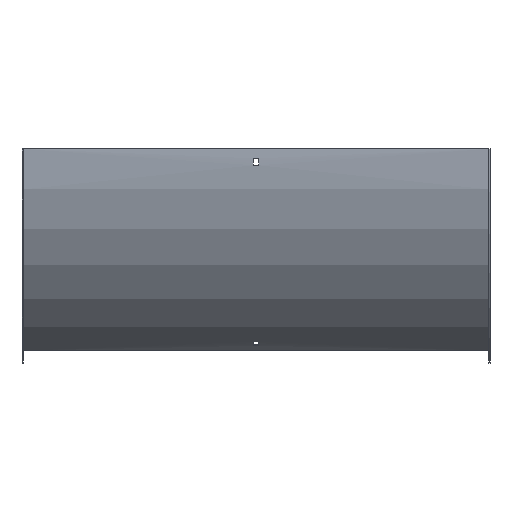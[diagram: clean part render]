
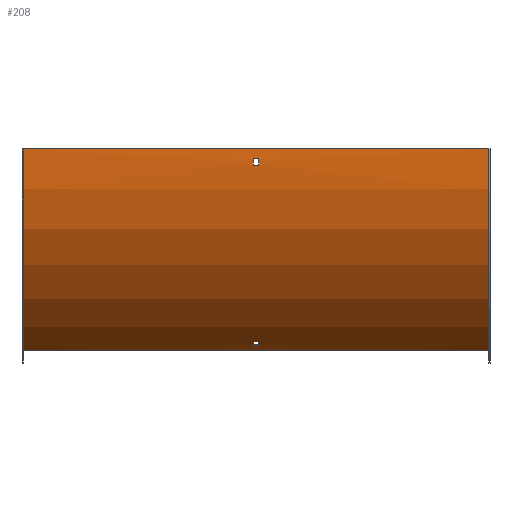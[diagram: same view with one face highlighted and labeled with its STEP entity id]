
A CAD part, front view. The second image highlights one B-rep face of the part: STEP entity #208.
In plain terms, the highlighted cylindrical face has radius 300 mm (diameter 600 mm), a partial arc.
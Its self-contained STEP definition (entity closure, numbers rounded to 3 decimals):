
#13 = CARTESIAN_POINT ( 'NONE',  ( 3.25, -1.26, -12. ) ) ;
#19 = CIRCLE ( 'NONE', #360, 300. ) ;
#20 = LINE ( 'NONE', #405, #52 ) ;
#21 = CARTESIAN_POINT ( 'NONE',  ( -3.25, 130.681, -248.67 ) ) ;
#27 = AXIS2_PLACEMENT_3D ( 'NONE', #177, #362, #593 ) ;
#30 = CARTESIAN_POINT ( 'NONE',  ( 3.25, -0.764, -21. ) ) ;
#33 = EDGE_CURVE ( 'NONE', #114, #368, #289, .T. ) ;
#34 = CARTESIAN_POINT ( 'NONE',  ( -3.25, 298.5, 0. ) ) ;
#35 = EDGE_CURVE ( 'NONE', #368, #397, #428, .T. ) ;
#43 = EDGE_CURVE ( 'NONE', #391, #397, #480, .T. ) ;
#44 = DIRECTION ( 'NONE',  ( 0., 0., -1. ) ) ;
#49 = DIRECTION ( 'NONE',  ( 0., 0., 1. ) ) ;
#52 = VECTOR ( 'NONE', #586, 1000. ) ;
#64 = ORIENTED_EDGE ( 'NONE', *, *, #43, .F. ) ;
#69 = CARTESIAN_POINT ( 'NONE',  ( 3.25, 298.5, 0. ) ) ;
#77 = CIRCLE ( 'NONE', #430, 300. ) ;
#78 = CYLINDRICAL_SURFACE ( 'NONE', #453, 300. ) ;
#81 = CARTESIAN_POINT ( 'NONE',  ( 301.5, 138.228, -253.6 ) ) ;
#90 = FACE_BOUND ( 'NONE', #237, .T. ) ;
#99 = CARTESIAN_POINT ( 'NONE',  ( -3.25, 298.5, 0. ) ) ;
#100 = VERTEX_POINT ( 'NONE', #142 ) ;
#101 = ORIENTED_EDGE ( 'NONE', *, *, #159, .T. ) ;
#108 = DIRECTION ( 'NONE',  ( 0., 0., 1. ) ) ;
#114 = VERTEX_POINT ( 'NONE', #123 ) ;
#115 = DIRECTION ( 'NONE',  ( 1., 0., 0. ) ) ;
#118 = CIRCLE ( 'NONE', #514, 300. ) ;
#123 = CARTESIAN_POINT ( 'NONE',  ( 300., 148.5, -259.808 ) ) ;
#138 = VECTOR ( 'NONE', #370, 1000. ) ;
#139 = CIRCLE ( 'NONE', #150, 300. ) ;
#141 = DIRECTION ( 'NONE',  ( -1., 0., 0. ) ) ;
#142 = CARTESIAN_POINT ( 'NONE',  ( -3.25, 138.228, -253.6 ) ) ;
#150 = AXIS2_PLACEMENT_3D ( 'NONE', #99, #439, #49 ) ;
#152 = EDGE_CURVE ( 'NONE', #408, #252, #77, .T. ) ;
#153 = ORIENTED_EDGE ( 'NONE', *, *, #429, .T. ) ;
#159 = EDGE_CURVE ( 'NONE', #100, #229, #118, .T. ) ;
#167 = CARTESIAN_POINT ( 'NONE',  ( 301.5, -0.764, -21. ) ) ;
#170 = DIRECTION ( 'NONE',  ( 0., 1., 0. ) ) ;
#173 = LINE ( 'NONE', #81, #454 ) ;
#177 = CARTESIAN_POINT ( 'NONE',  ( -300., 298.5, 0. ) ) ;
#178 = DIRECTION ( 'NONE',  ( -1., 0., 0. ) ) ;
#182 = CARTESIAN_POINT ( 'NONE',  ( 301.5, -1.26, -12. ) ) ;
#205 = EDGE_CURVE ( 'NONE', #252, #244, #595, .T. ) ;
#206 = CARTESIAN_POINT ( 'NONE',  ( -3.25, -1.26, -12. ) ) ;
#208 = ADVANCED_FACE ( 'NONE', ( #367, #354, #90 ), #78, .T. ) ;
#217 = CARTESIAN_POINT ( 'NONE',  ( 300., -1.5, 0. ) ) ;
#224 = ORIENTED_EDGE ( 'NONE', *, *, #35, .T. ) ;
#228 = DIRECTION ( 'NONE',  ( -1., 0., 0. ) ) ;
#229 = VERTEX_POINT ( 'NONE', #21 ) ;
#231 = CARTESIAN_POINT ( 'NONE',  ( 3.25, 138.228, -253.6 ) ) ;
#237 = EDGE_LOOP ( 'NONE', ( #153, #101, #486, #572 ) ) ;
#244 = VERTEX_POINT ( 'NONE', #206 ) ;
#252 = VERTEX_POINT ( 'NONE', #13 ) ;
#257 = ORIENTED_EDGE ( 'NONE', *, *, #205, .F. ) ;
#259 = DIRECTION ( 'NONE',  ( 1., 0., 0. ) ) ;
#263 = DIRECTION ( 'NONE',  ( -1., 0., 0. ) ) ;
#273 = CARTESIAN_POINT ( 'NONE',  ( 301.5, 298.5, 0. ) ) ;
#288 = EDGE_LOOP ( 'NONE', ( #560, #257, #596, #298 ) ) ;
#289 = CIRCLE ( 'NONE', #403, 300. ) ;
#292 = ORIENTED_EDGE ( 'NONE', *, *, #33, .T. ) ;
#294 = EDGE_CURVE ( 'NONE', #244, #589, #139, .T. ) ;
#298 = ORIENTED_EDGE ( 'NONE', *, *, #410, .F. ) ;
#304 = LINE ( 'NONE', #167, #482 ) ;
#333 = EDGE_CURVE ( 'NONE', #434, #522, #19, .T. ) ;
#337 = EDGE_CURVE ( 'NONE', #229, #434, #20, .T. ) ;
#343 = ORIENTED_EDGE ( 'NONE', *, *, #494, .F. ) ;
#345 = CARTESIAN_POINT ( 'NONE',  ( 300., -1.5, 0. ) ) ;
#348 = CARTESIAN_POINT ( 'NONE',  ( -300., -1.5, 0. ) ) ;
#354 = FACE_OUTER_BOUND ( 'NONE', #521, .T. ) ;
#360 = AXIS2_PLACEMENT_3D ( 'NONE', #69, #259, #108 ) ;
#362 = DIRECTION ( 'NONE',  ( -1., 0., 0. ) ) ;
#366 = DIRECTION ( 'NONE',  ( -1., 0., 0. ) ) ;
#367 = FACE_BOUND ( 'NONE', #288, .T. ) ;
#368 = VERTEX_POINT ( 'NONE', #345 ) ;
#369 = CARTESIAN_POINT ( 'NONE',  ( 300., 148.5, -259.808 ) ) ;
#370 = DIRECTION ( 'NONE',  ( -1., 0., 0. ) ) ;
#373 = LINE ( 'NONE', #369, #413 ) ;
#377 = CARTESIAN_POINT ( 'NONE',  ( 300., 298.5, 0. ) ) ;
#391 = VERTEX_POINT ( 'NONE', #400 ) ;
#397 = VERTEX_POINT ( 'NONE', #348 ) ;
#400 = CARTESIAN_POINT ( 'NONE',  ( -300., 148.5, -259.808 ) ) ;
#403 = AXIS2_PLACEMENT_3D ( 'NONE', #377, #366, #562 ) ;
#405 = CARTESIAN_POINT ( 'NONE',  ( 301.5, 130.681, -248.67 ) ) ;
#407 = DIRECTION ( 'NONE',  ( -1., 0., 0. ) ) ;
#408 = VERTEX_POINT ( 'NONE', #30 ) ;
#410 = EDGE_CURVE ( 'NONE', #589, #408, #304, .T. ) ;
#413 = VECTOR ( 'NONE', #141, 1000. ) ;
#418 = CARTESIAN_POINT ( 'NONE',  ( -3.25, -0.764, -21. ) ) ;
#428 = LINE ( 'NONE', #217, #138 ) ;
#429 = EDGE_CURVE ( 'NONE', #522, #100, #173, .T. ) ;
#430 = AXIS2_PLACEMENT_3D ( 'NONE', #496, #407, #44 ) ;
#434 = VERTEX_POINT ( 'NONE', #530 ) ;
#439 = DIRECTION ( 'NONE',  ( 1., 0., 0. ) ) ;
#453 = AXIS2_PLACEMENT_3D ( 'NONE', #273, #178, #552 ) ;
#454 = VECTOR ( 'NONE', #534, 1000. ) ;
#480 = CIRCLE ( 'NONE', #27, 300. ) ;
#482 = VECTOR ( 'NONE', #115, 1000. ) ;
#486 = ORIENTED_EDGE ( 'NONE', *, *, #337, .T. ) ;
#494 = EDGE_CURVE ( 'NONE', #114, #391, #373, .T. ) ;
#496 = CARTESIAN_POINT ( 'NONE',  ( 3.25, 298.5, 0. ) ) ;
#514 = AXIS2_PLACEMENT_3D ( 'NONE', #34, #228, #170 ) ;
#521 = EDGE_LOOP ( 'NONE', ( #64, #343, #292, #224 ) ) ;
#522 = VERTEX_POINT ( 'NONE', #231 ) ;
#530 = CARTESIAN_POINT ( 'NONE',  ( 3.25, 130.681, -248.67 ) ) ;
#534 = DIRECTION ( 'NONE',  ( -1., 0., 0. ) ) ;
#552 = DIRECTION ( 'NONE',  ( 0., 0., 1. ) ) ;
#560 = ORIENTED_EDGE ( 'NONE', *, *, #294, .F. ) ;
#562 = DIRECTION ( 'NONE',  ( 0., 0., 1. ) ) ;
#572 = ORIENTED_EDGE ( 'NONE', *, *, #333, .T. ) ;
#586 = DIRECTION ( 'NONE',  ( 1., 0., 0. ) ) ;
#589 = VERTEX_POINT ( 'NONE', #418 ) ;
#593 = DIRECTION ( 'NONE',  ( 0., 0., 1. ) ) ;
#594 = VECTOR ( 'NONE', #263, 1000. ) ;
#595 = LINE ( 'NONE', #182, #594 ) ;
#596 = ORIENTED_EDGE ( 'NONE', *, *, #152, .F. ) ;
